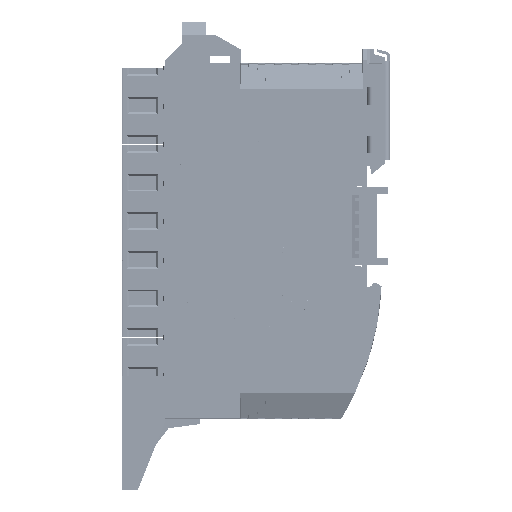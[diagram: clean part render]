
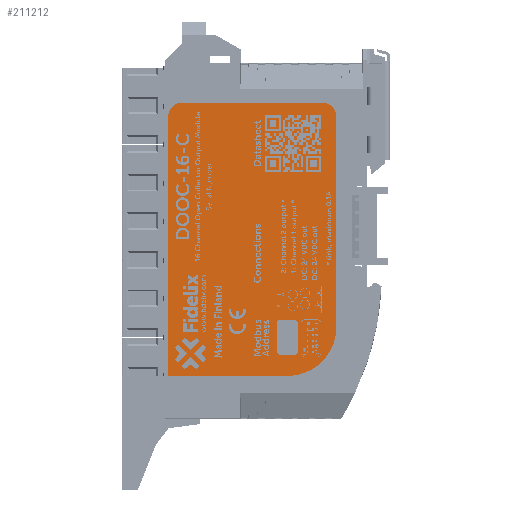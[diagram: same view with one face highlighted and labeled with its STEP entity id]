
A CAD part, left-side view. The second image highlights one B-rep face of the part: STEP entity #211212.
In plain terms, the highlighted planar face has unit normal (-1, 0, 0).
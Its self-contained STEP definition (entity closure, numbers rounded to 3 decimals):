
#3705=CIRCLE('',#222599,1.);
#3707=CIRCLE('',#222603,1.);
#3709=CIRCLE('',#222607,1.);
#3711=CIRCLE('',#222611,1.);
#3713=CIRCLE('',#222616,4.);
#3715=CIRCLE('',#222620,4.);
#3717=CIRCLE('',#222624,14.);
#5682=FACE_BOUND('',#32555,.T.);
#11574=PLANE('',#222625);
#21311=FACE_OUTER_BOUND('',#32554,.T.);
#32554=EDGE_LOOP('',(#169219,#169220,#169221,#169222,#169223,#169224,#169225));
#32555=EDGE_LOOP('',(#169226,#169227,#169228,#169229,#169230,#169231,#169232,
#169233));
#51330=LINE('',#418937,#74695);
#51334=LINE('',#418949,#74699);
#51338=LINE('',#418961,#74703);
#51342=LINE('',#418973,#74707);
#51346=LINE('',#418985,#74711);
#51349=LINE('',#418991,#74714);
#51353=LINE('',#419003,#74718);
#51357=LINE('',#419015,#74722);
#74695=VECTOR('',#257236,1000.);
#74699=VECTOR('',#257248,1000.);
#74703=VECTOR('',#257260,1000.);
#74707=VECTOR('',#257272,1000.);
#74711=VECTOR('',#257284,1000.);
#74714=VECTOR('',#257289,1000.);
#74718=VECTOR('',#257301,1000.);
#74722=VECTOR('',#257313,1000.);
#97410=VERTEX_POINT('',#418934);
#97411=VERTEX_POINT('',#418936);
#97413=VERTEX_POINT('',#418942);
#97415=VERTEX_POINT('',#418948);
#97417=VERTEX_POINT('',#418954);
#97419=VERTEX_POINT('',#418960);
#97421=VERTEX_POINT('',#418966);
#97423=VERTEX_POINT('',#418972);
#97426=VERTEX_POINT('',#418982);
#97427=VERTEX_POINT('',#418984);
#97429=VERTEX_POINT('',#418990);
#97431=VERTEX_POINT('',#418996);
#97433=VERTEX_POINT('',#419002);
#97435=VERTEX_POINT('',#419008);
#97437=VERTEX_POINT('',#419014);
#122634=EDGE_CURVE('',#97411,#97410,#51330,.T.);
#122637=EDGE_CURVE('',#97413,#97411,#3705,.T.);
#122640=EDGE_CURVE('',#97415,#97413,#51334,.T.);
#122643=EDGE_CURVE('',#97417,#97415,#3707,.T.);
#122646=EDGE_CURVE('',#97419,#97417,#51338,.T.);
#122649=EDGE_CURVE('',#97421,#97419,#3709,.T.);
#122652=EDGE_CURVE('',#97423,#97421,#51342,.T.);
#122655=EDGE_CURVE('',#97410,#97423,#3711,.T.);
#122658=EDGE_CURVE('',#97427,#97426,#51346,.T.);
#122661=EDGE_CURVE('',#97429,#97427,#51349,.T.);
#122664=EDGE_CURVE('',#97431,#97429,#3713,.T.);
#122667=EDGE_CURVE('',#97433,#97431,#51353,.T.);
#122670=EDGE_CURVE('',#97435,#97433,#3715,.T.);
#122673=EDGE_CURVE('',#97437,#97435,#51357,.T.);
#122676=EDGE_CURVE('',#97426,#97437,#3717,.T.);
#169219=ORIENTED_EDGE('',*,*,#122676,.T.);
#169220=ORIENTED_EDGE('',*,*,#122673,.T.);
#169221=ORIENTED_EDGE('',*,*,#122670,.T.);
#169222=ORIENTED_EDGE('',*,*,#122667,.T.);
#169223=ORIENTED_EDGE('',*,*,#122664,.T.);
#169224=ORIENTED_EDGE('',*,*,#122661,.T.);
#169225=ORIENTED_EDGE('',*,*,#122658,.T.);
#169226=ORIENTED_EDGE('',*,*,#122655,.T.);
#169227=ORIENTED_EDGE('',*,*,#122652,.T.);
#169228=ORIENTED_EDGE('',*,*,#122649,.T.);
#169229=ORIENTED_EDGE('',*,*,#122646,.T.);
#169230=ORIENTED_EDGE('',*,*,#122643,.T.);
#169231=ORIENTED_EDGE('',*,*,#122640,.T.);
#169232=ORIENTED_EDGE('',*,*,#122637,.T.);
#169233=ORIENTED_EDGE('',*,*,#122634,.T.);
#211212=ADVANCED_FACE('',(#21311,#5682),#11574,.T.);
#222599=AXIS2_PLACEMENT_3D('',#418943,#257242,#257243);
#222603=AXIS2_PLACEMENT_3D('',#418955,#257254,#257255);
#222607=AXIS2_PLACEMENT_3D('',#418967,#257266,#257267);
#222611=AXIS2_PLACEMENT_3D('',#418977,#257278,#257279);
#222616=AXIS2_PLACEMENT_3D('',#418997,#257295,#257296);
#222620=AXIS2_PLACEMENT_3D('',#419009,#257307,#257308);
#222624=AXIS2_PLACEMENT_3D('',#419019,#257319,#257320);
#222625=AXIS2_PLACEMENT_3D('',#419020,#257321,#257322);
#257236=DIRECTION('',(0.,0.,-1.));
#257242=DIRECTION('center_axis',(1.,0.,0.));
#257243=DIRECTION('ref_axis',(0.,-1.,0.));
#257248=DIRECTION('',(0.,-1.,0.));
#257254=DIRECTION('center_axis',(1.,0.,0.));
#257255=DIRECTION('ref_axis',(0.,0.,
1.));
#257260=DIRECTION('',(0.,0.,1.));
#257266=DIRECTION('center_axis',(1.,0.,0.));
#257267=DIRECTION('ref_axis',(0.,1.,0.));
#257272=DIRECTION('',(0.,1.,0.));
#257278=DIRECTION('center_axis',(1.,0.,0.));
#257279=DIRECTION('ref_axis',(0.,0.,
-1.));
#257284=DIRECTION('',(0.,-1.,0.));
#257289=DIRECTION('',(0.,0.,-1.));
#257295=DIRECTION('center_axis',(-1.,0.,0.));
#257296=DIRECTION('ref_axis',(0.,0.,
1.));
#257301=DIRECTION('',(0.,1.,0.));
#257307=DIRECTION('center_axis',(-1.,0.,0.));
#257308=DIRECTION('ref_axis',(0.,-1.,0.));
#257313=DIRECTION('',(0.,0.,1.));
#257319=DIRECTION('center_axis',(-1.,0.,0.));
#257320=DIRECTION('ref_axis',(0.,0.,
-1.));
#257321=DIRECTION('center_axis',(-1.,0.,0.));
#257322=DIRECTION('ref_axis',(0.,-1.,0.));
#418934=CARTESIAN_POINT('',(-9.55,19.7,-94.02));
#418936=CARTESIAN_POINT('',(-9.55,19.7,-86.02));
#418937=CARTESIAN_POINT('',(-9.55,19.7,-94.02));
#418942=CARTESIAN_POINT('',(-9.55,20.7,-85.02));
#418943=CARTESIAN_POINT('Origin',(-9.55,20.7,-86.02));
#418948=CARTESIAN_POINT('',(-9.55,24.7,-85.02));
#418949=CARTESIAN_POINT('',(-9.55,20.7,-85.02));
#418954=CARTESIAN_POINT('',(-9.55,25.7,-86.02));
#418955=CARTESIAN_POINT('Origin',(-9.55,24.7,-86.02));
#418960=CARTESIAN_POINT('',(-9.55,25.7,-94.02));
#418961=CARTESIAN_POINT('',(-9.55,25.7,-86.02));
#418966=CARTESIAN_POINT('',(-9.55,24.7,-95.02));
#418967=CARTESIAN_POINT('Origin',(-9.55,24.7,-94.02));
#418972=CARTESIAN_POINT('',(-9.55,20.7,-95.02));
#418973=CARTESIAN_POINT('',(-9.55,24.7,-95.02));
#418977=CARTESIAN_POINT('Origin',(-9.55,20.7,-94.02));
#418982=CARTESIAN_POINT('',(-9.55,22.7,-101.02));
#418984=CARTESIAN_POINT('',(-9.55,56.7,-101.02));
#418985=CARTESIAN_POINT('',(-9.55,56.7,-101.02));
#418990=CARTESIAN_POINT('',(-9.55,56.7,-27.02));
#418991=CARTESIAN_POINT('',(-9.55,56.7,-27.02));
#418996=CARTESIAN_POINT('',(-9.55,52.7,-23.02));
#418997=CARTESIAN_POINT('Origin',(-9.55,52.7,-27.02));
#419002=CARTESIAN_POINT('',(-9.55,12.7,-23.02));
#419003=CARTESIAN_POINT('',(-9.55,12.7,-23.02));
#419008=CARTESIAN_POINT('',(-9.55,8.7,-27.02));
#419009=CARTESIAN_POINT('Origin',(-9.55,12.7,-27.02));
#419014=CARTESIAN_POINT('',(-9.55,8.7,-87.02));
#419015=CARTESIAN_POINT('',(-9.55,8.7,-87.02));
#419019=CARTESIAN_POINT('Origin',(-9.55,22.7,-87.02));
#419020=CARTESIAN_POINT('Origin',(-9.55,32.7,-62.02));
